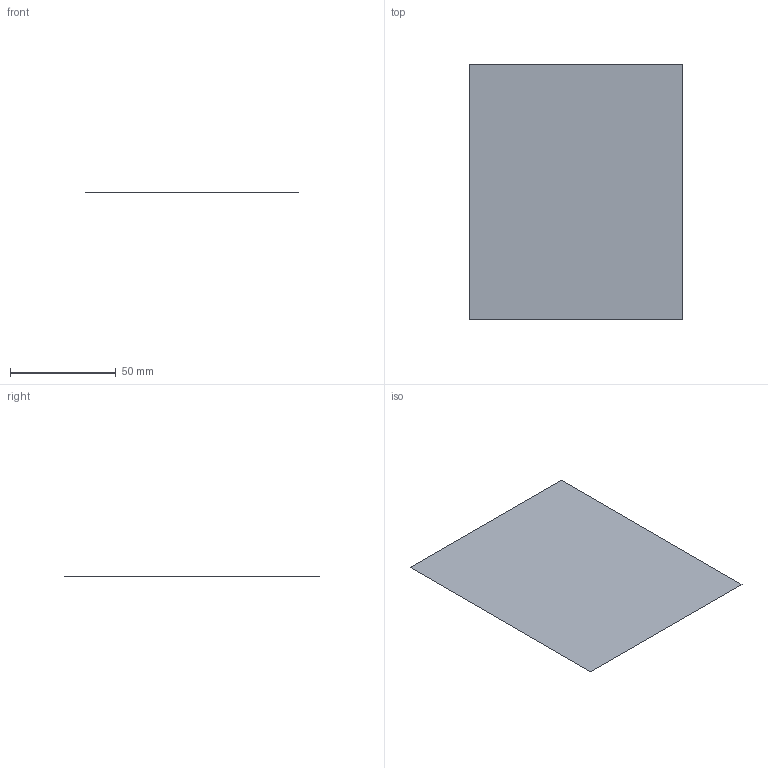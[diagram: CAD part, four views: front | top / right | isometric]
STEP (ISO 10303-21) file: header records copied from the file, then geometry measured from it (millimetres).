
FILE_DESCRIPTION(('CATIA V5 STEP Exchange'),'2;1');
FILE_NAME('C:\_Andres\UNIVERSIDAD\IQS\ASIGNATURAS\DAO\EXF\EXF-15161c\1original\Gual_Moseguí_Ej06-calculo_v11.stp','2016-03-04T20:57:42+00:00',('none'),('none'),'CATIA Version 5 Release 20 SP 1 (IN-10)','CATIA V5 STEP AP203','none');
FILE_SCHEMA(('CONFIG_CONTROL_DESIGN'));
Length unit declared in the file: millimetre
Products named in the file (1): Gual_Moseguí_Ej06-calculo_v11
Bounding box: 101 x 121 x 0 mm (x, y, z)
Surface area: 12221 mm2 (no closed solid volume)
Topology: 0 solids, 1 shells, 1 faces, 8 edges, 9 vertices
Faces by surface type: plane 1
Entity records: 130 total; most frequent: CARTESIAN_POINT 23, DIRECTION 12, VECTOR 8, LINE 8, COMPOSITE_CURVE_SEGMENT 4, ORIENTED_EDGE 4, CC_DESIGN_PERSON_AND_ORGANIZATION_ASSIGNMENT 4, PERSON_AND_ORGANIZATION_ROLE 4
